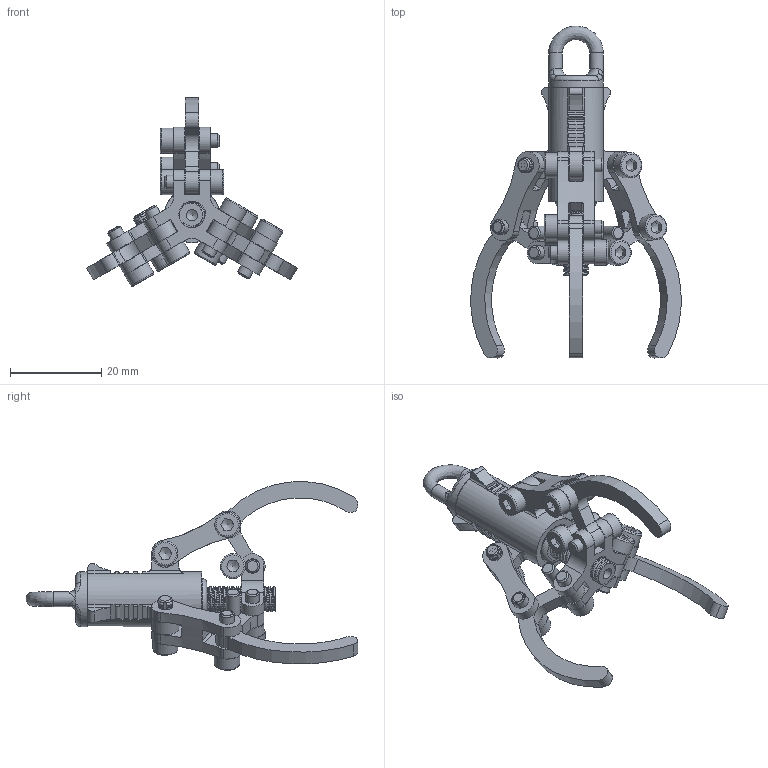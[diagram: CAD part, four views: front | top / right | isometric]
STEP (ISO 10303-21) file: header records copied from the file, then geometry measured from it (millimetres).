
FILE_DESCRIPTION(/* description */ ('','CAx-IF Rec.Pracs.---Representation and Presentation of Product Manufacturing Information (PMI)---4.0---2014-10-13'),/* implementation_level */ '2;1');
FILE_NAME(/* name */ 'Assieme_pinza_vite_portachiavi.stp',/* time_stamp */ '2026-05-15T11:02:18+02:00',/* author */ ('R5800u'),/* organization */ (''),/* preprocessor_version */ 'ST-DEVELOPER v20',/* originating_system */ 'Autodesk Inventor 2025',/* authorisation */ '');
FILE_SCHEMA (('AP242_MANAGED_MODEL_BASED_3D_ENGINEERING_MIM_LF { 1 0 10303 442 1 1 4 }'));
Length unit declared in the file: millimetre
Products named in the file (9): Assieme1; Parte1; vite; vite3; dado; Parte5; Parte4; Parte2; AS 1420 - 1973 - M3 x 10
Assembly tree (24 placements, depth 2):
  Assieme1
    Parte1
    AS 1420 - 1973 - M3 x 10  x13
    vite
    vite3
    dado
    Parte5
    Parte4  x3
    Parte2  x3
Bounding box: 46.16 x 72.78 x 41.39 mm (x, y, z)
Volume: 8790.1 mm3; surface area: 11944.8 mm2
Topology: 24 solids, 24 shells, 647 faces, 1722 edges, 1134 vertices
Faces by surface type: plane 278, cylinder 271, torus 47, cone 33, bspline 18
Full cylindrical faces by diameter (mm): 1.8 x4, 2.5 x1, 3 x16, 3.2 x27, 3.5 x2, 4.744 x14, 5 x1, 5.3 x4, 5.5 x28, 6.147 x4, 8 x1, 8.15 x1, 9 x1, 9.2 x1, 12 x2
Entity records: 31063 total; most frequent: CARTESIAN_POINT 20001, DIRECTION 2173, ORIENTED_EDGE 2048, EDGE_CURVE 1024, AXIS2_PLACEMENT_3D 849, VERTEX_POINT 674, LINE 475, VECTOR 475
